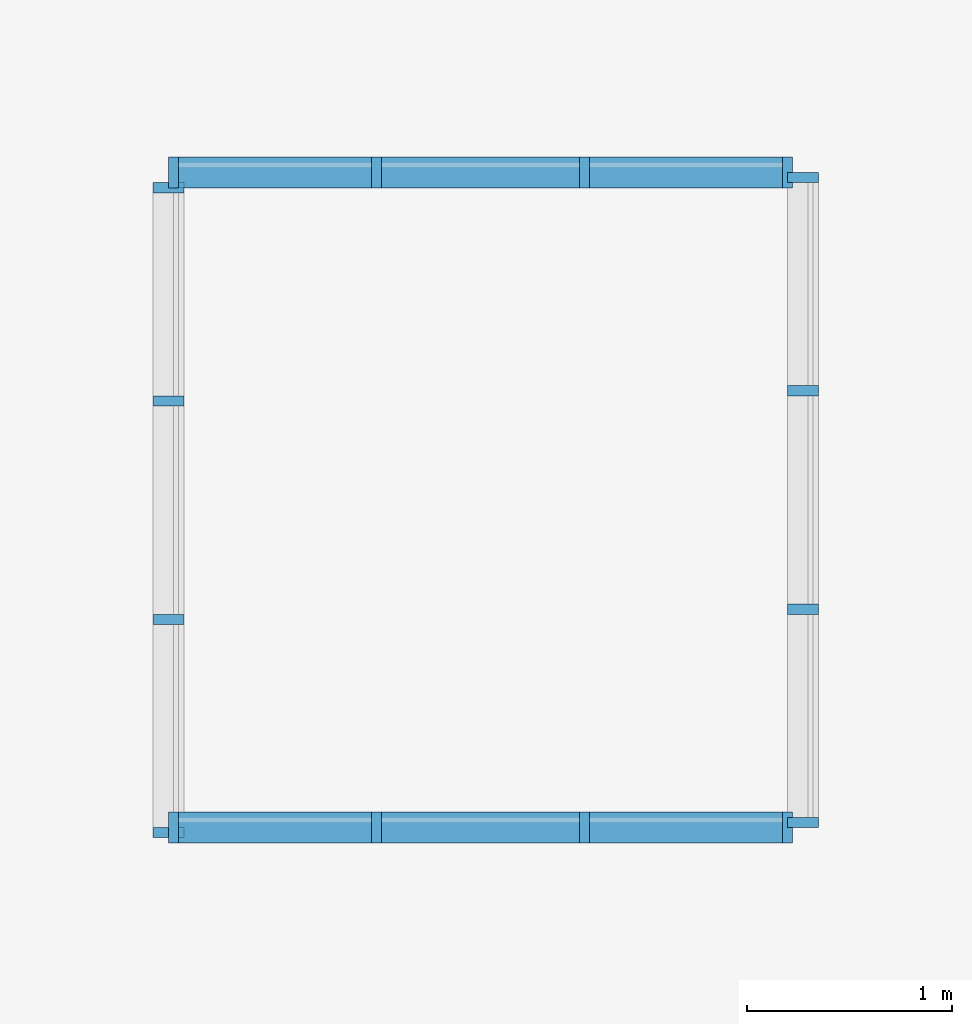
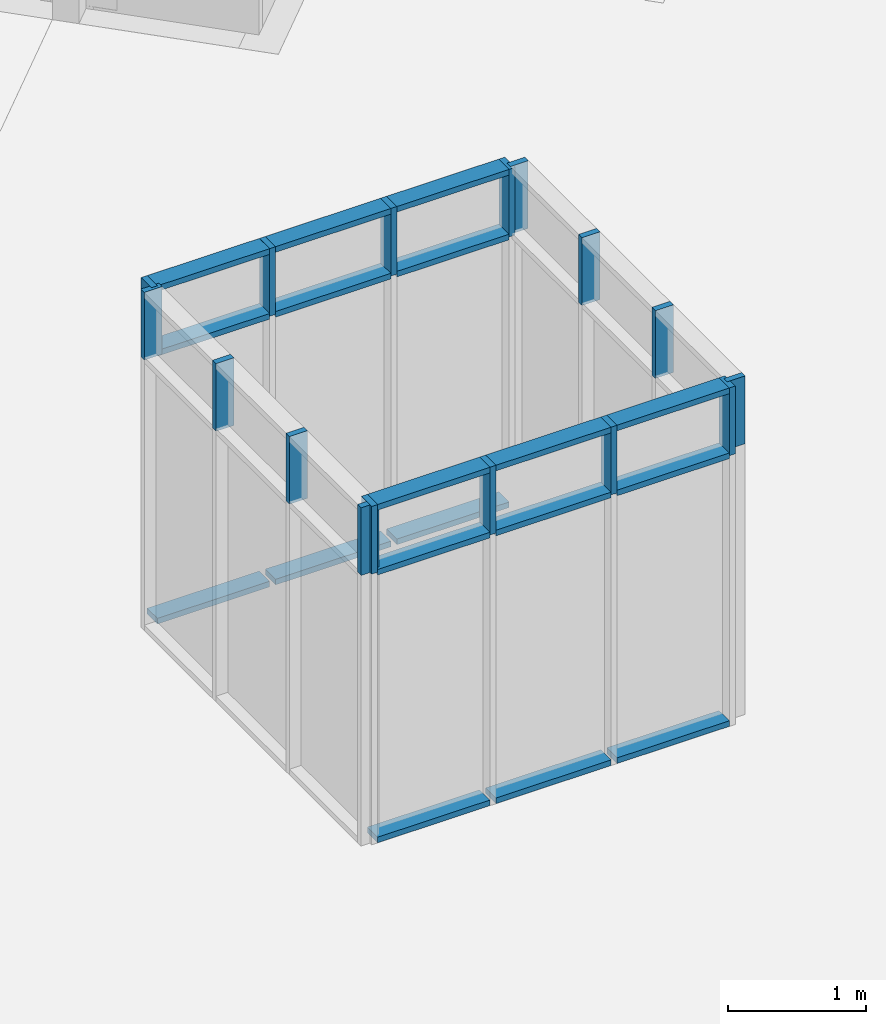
# One storey, part 9 of 64: 34 members, 4 elements without a shape of their own.
"""IFC2X3 building model written with IfcOpenShell, lengths in millimetres."""

from ifc_helpers import new_model, entity, si_unit, converted_unit, derived_unit, direction, frame, frame_2d, origin, origin_2d_with_axis, place, context, subcontext, project, spatial, rectangle, extrude, material, type_object, element, aggregate, save


model = new_model("IFC2X3")

# Units and contexts
model_context = context("Model", 3, precision=0.01, world=origin(), true_north=direction((4.05803320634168e-15, -1.0)))
body_context = subcontext(model_context, "Body", "Model", "MODEL_VIEW")
ifc_project = project(units=[si_unit("LENGTHUNIT", "METRE", prefix="MILLI"), si_unit("AREAUNIT", "SQUARE_METRE"), si_unit("VOLUMEUNIT", "CUBIC_METRE"), converted_unit("PLANEANGLEUNIT", "DEGREE", entity("IfcRatioMeasure", 0.0174532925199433), si_unit("PLANEANGLEUNIT", "RADIAN"), dimensions=[0, 0, 0, 0, 0, 0, 0]), si_unit("MASSUNIT", "GRAM", prefix="KILO"), derived_unit("MASSDENSITYUNIT", [(si_unit("MASSUNIT", "GRAM", prefix="KILO"), 1), (si_unit("LENGTHUNIT", "METRE"), -3)]), si_unit("TIMEUNIT", "SECOND"), si_unit("FREQUENCYUNIT", "HERTZ"), si_unit("THERMODYNAMICTEMPERATUREUNIT", "DEGREE_CELSIUS"), derived_unit("THERMALTRANSMITTANCEUNIT", [(si_unit("MASSUNIT", "GRAM", prefix="KILO"), 1), (si_unit("THERMODYNAMICTEMPERATUREUNIT", "KELVIN"), -1), (si_unit("TIMEUNIT", "SECOND"), -3)]), derived_unit("VOLUMETRICFLOWRATEUNIT", [(si_unit("LENGTHUNIT", "METRE"), 3), (si_unit("TIMEUNIT", "SECOND"), -1)]), si_unit("ELECTRICCURRENTUNIT", "AMPERE"), si_unit("ELECTRICVOLTAGEUNIT", "VOLT"), si_unit("POWERUNIT", "WATT"), si_unit("FORCEUNIT", "NEWTON", prefix="KILO"), si_unit("ILLUMINANCEUNIT", "LUX"), si_unit("LUMINOUSFLUXUNIT", "LUMEN"), si_unit("LUMINOUSINTENSITYUNIT", "CANDELA"), derived_unit("USERDEFINED", [(si_unit("MASSUNIT", "GRAM", prefix="KILO"), -1), (si_unit("LENGTHUNIT", "METRE"), -2), (si_unit("TIMEUNIT", "SECOND"), 3), (si_unit("LUMINOUSFLUXUNIT", "LUMEN"), 1)]), derived_unit("LINEARVELOCITYUNIT", [(si_unit("LENGTHUNIT", "METRE"), 1), (si_unit("TIMEUNIT", "SECOND"), -1)]), si_unit("PRESSUREUNIT", "PASCAL"), derived_unit("USERDEFINED", [(si_unit("LENGTHUNIT", "METRE"), -2), (si_unit("MASSUNIT", "GRAM", prefix="KILO"), 1), (si_unit("TIMEUNIT", "SECOND"), -2)])], contexts=[model_context])

# Site, building, storey
site_placement = place(None, frame((927466.849349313, 583801.882853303, 0.0), z_axis=(0.0, 0.0, 1.0), x_axis=(-1.0, 0.0, 0.0)))
site = spatial("IfcSite", under=ifc_project, at=site_placement, Name="Surface", CompositionType="ELEMENT")
building_placement = place(site_placement, origin())
building = spatial("IfcBuilding", under=site, at=building_placement, CompositionType="ELEMENT")
storey_placement = place(building_placement, frame((0.0, 0.0, 44170.0)))
storey = spatial("IfcBuildingStorey", under=building, at=storey_placement, Name="Ground FFL", CompositionType="ELEMENT", Elevation=44170.0)

# Curtain wall, members
curtain_wall_type = type_object("IfcCurtainWallType", Name="Curtain Wall:Storefront", PredefinedType="NOTDEFINED")
curtain_wall_1_placement = place(storey_placement, frame((0.0, 0.0, -44170.0)))
curtain_wall_1 = element("IfcCurtainWall", 1, at=curtain_wall_1_placement, inside=storey, type_object=curtain_wall_type, Name="Curtain Wall:Storefront", ObjectType="Curtain Wall:Storefront")
ifc_material = material(Name="Aluminium")
member_1_placement = place(curtain_wall_1_placement, frame((0.0, 0.0, 44170.0)))
member_1 = element("IfcMember", 2, at=member_1_placement, material=ifc_material, Name="Curtain Wall:Storefront:8486", ObjectType="Curtain Wall:Storefront:8486", context=body_context, shape_type="SweptSolid", body=[
    extrude(rectangle(XDim=150.000000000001, YDim=50.0000000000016, at=frame_2d((0.0, 2.16715534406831e-12), x_axis=(1.0, 0.0))), frame((-91700.5917798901, -21346.7403210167, 3001.14574404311), z_axis=(0.0, 0.0, -1.0), x_axis=(-1.0, 0.0, 0.0)), (0.0, 0.0, 1.0), 601.145744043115),
])
member_2_placement = place(curtain_wall_1_placement, frame((0.0, 0.0, 44170.0)))
member_2 = element("IfcMember", 3, at=member_2_placement, material=ifc_material, Name="Curtain Wall:Storefront:8486", ObjectType="Curtain Wall:Storefront:8486", context=body_context, shape_type="SweptSolid", body=[
    extrude(rectangle(XDim=150.000000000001, YDim=50.0000000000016, at=frame_2d((0.0, 2.16715534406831e-12), x_axis=(1.0, 0.0))), frame((-91700.5917798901, -24496.7403210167, 2400.0), z_axis=(0.0, 0.0, 1.0), x_axis=(-1.0, 0.0, 0.0)), (0.0, 0.0, 1.0), 601.145744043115),
])
member_3_placement = place(curtain_wall_1_placement, frame((0.0, 0.0, 44170.0)))
member_3 = element("IfcMember", 4, at=member_3_placement, material=ifc_material, Name="Curtain Wall:Storefront:8486", ObjectType="Curtain Wall:Storefront:8486", context=body_context, shape_type="SweptSolid", body=[
    extrude(rectangle(XDim=150.000000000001, YDim=49.9999999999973, at=origin_2d_with_axis()), frame((-91700.5917798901, -22388.4069877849, 2400.0), z_axis=(0.0, 0.0, 1.0), x_axis=(-1.0, 0.0, 0.0)), (0.0, 0.0, 1.0), 601.145744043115),
])
member_4_placement = place(curtain_wall_1_placement, frame((0.0, 0.0, 44170.0)))
member_4 = element("IfcMember", 5, at=member_4_placement, material=ifc_material, Name="Curtain Wall:Storefront:8486", ObjectType="Curtain Wall:Storefront:8486", context=body_context, shape_type="SweptSolid", body=[
    extrude(rectangle(XDim=150.000000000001, YDim=49.9999999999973, at=origin_2d_with_axis()), frame((-91700.5917798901, -23455.0736542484, 2400.0), z_axis=(0.0, 0.0, 1.0), x_axis=(-1.0, 0.0, 0.0)), (0.0, 0.0, 1.0), 601.145744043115),
])
aggregate(curtain_wall_1, [member_1, member_2, member_3, member_4])

curtain_wall_2_placement = place(storey_placement, frame((0.0, 0.0, -44170.0)))
curtain_wall_2 = element("IfcCurtainWall", 6, at=curtain_wall_2_placement, inside=storey, type_object=curtain_wall_type, Name="Curtain Wall:Storefront", ObjectType="Curtain Wall:Storefront")
member_5_placement = place(curtain_wall_2_placement, frame((0.0, 0.0, 44170.0)))
member_5 = element("IfcMember", 7, at=member_5_placement, material=ifc_material, Name="Curtain Wall:Storefront:8486", ObjectType="Curtain Wall:Storefront:8486", context=body_context, shape_type="SweptSolid", body=[
    extrude(rectangle(XDim=49.9999999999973, YDim=150.000000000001, at=frame_2d((4.33075797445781e-12, 8.66151594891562e-12), x_axis=(1.0, 0.0))), frame((-91600.5917798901, -21321.7403210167, 2976.14574404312), z_axis=(1.0, 0.0, 0.0), x_axis=(0.0, 0.0, -1.0)), (0.0, 0.0, 1.0), 941.666666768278),
])
member_6_placement = place(curtain_wall_2_placement, frame((0.0, 0.0, 44170.0)))
member_6 = element("IfcMember", 8, at=member_6_placement, material=ifc_material, Name="Curtain Wall:Storefront:8486", ObjectType="Curtain Wall:Storefront:8486", context=body_context, shape_type="SweptSolid", body=[
    extrude(rectangle(XDim=49.9999999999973, YDim=150.000000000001, at=frame_2d((4.33075797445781e-12, 8.66151594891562e-12), x_axis=(1.0, 0.0))), frame((-88650.5917798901, -21321.7403210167, 25.0), z_axis=(-1.0, 0.0, 0.0), x_axis=(0.0, 0.0, -1.0)), (0.0, 0.0, 1.0), 941.666666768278),
])
member_7_placement = place(curtain_wall_2_placement, frame((0.0, 0.0, 44170.0)))
member_7 = element("IfcMember", 9, at=member_7_placement, material=ifc_material, Name="Curtain Wall:Storefront:8486", ObjectType="Curtain Wall:Storefront:8486", context=body_context, shape_type="SweptSolid", body=[
    extrude(rectangle(XDim=50.000000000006, YDim=150.000000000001, at=frame_2d((-8.66329230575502e-12, 0.0), x_axis=(1.0, 0.0))), frame((-88625.5917798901, -21321.7403210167, 3001.14574404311), z_axis=(0.0, 0.0, -1.0), x_axis=(-1.0, 0.0, 0.0)), (0.0, 0.0, 1.0), 601.145744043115),
])
member_8_placement = place(curtain_wall_2_placement, frame((0.0, 0.0, 44170.0)))
member_8 = element("IfcMember", 10, at=member_8_placement, material=ifc_material, Name="Curtain Wall:Storefront:8486", ObjectType="Curtain Wall:Storefront:8486", context=body_context, shape_type="SweptSolid", body=[
    extrude(rectangle(XDim=49.9999999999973, YDim=150.000000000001, at=frame_2d((4.33075797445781e-12, 8.66151594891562e-12), x_axis=(1.0, 0.0))), frame((-89592.2584466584, -21321.7403210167, 2976.14574404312), z_axis=(1.0, 0.0, 0.0), x_axis=(0.0, 0.0, -1.0)), (0.0, 0.0, 1.0), 941.666666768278),
])
member_9_placement = place(curtain_wall_2_placement, frame((0.0, 0.0, 44170.0)))
member_9 = element("IfcMember", 11, at=member_9_placement, material=ifc_material, Name="Curtain Wall:Storefront:8486", ObjectType="Curtain Wall:Storefront:8486", context=body_context, shape_type="SweptSolid", body=[
    extrude(rectangle(XDim=49.9999999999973, YDim=150.000000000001, at=frame_2d((4.33075797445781e-12, 4.33431068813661e-12), x_axis=(1.0, 0.0))), frame((-90608.9251131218, -21321.7403210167, 2976.14574404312), z_axis=(1.0, 0.0, 0.0), x_axis=(0.0, 0.0, -1.0)), (0.0, 0.0, 1.0), 966.666666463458),
])
member_10_placement = place(curtain_wall_2_placement, frame((0.0, 0.0, 44170.0)))
member_10 = element("IfcMember", 12, at=member_10_placement, material=ifc_material, Name="Curtain Wall:Storefront:8486", ObjectType="Curtain Wall:Storefront:8486", context=body_context, shape_type="SweptSolid", body=[
    extrude(rectangle(XDim=49.9999999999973, YDim=150.000000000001, at=frame_2d((4.33075797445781e-12, 4.33431068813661e-12), x_axis=(1.0, 0.0))), frame((-89642.2584466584, -21321.7403210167, 25.0), z_axis=(-1.0, 0.0, 0.0), x_axis=(0.0, 0.0, -1.0)), (0.0, 0.0, 1.0), 966.666666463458),
])
member_11_placement = place(curtain_wall_2_placement, frame((0.0, 0.0, 44170.0)))
member_11 = element("IfcMember", 13, at=member_11_placement, material=ifc_material, Name="Curtain Wall:Storefront:8486", ObjectType="Curtain Wall:Storefront:8486", context=body_context, shape_type="SweptSolid", body=[
    extrude(rectangle(XDim=49.9999999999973, YDim=150.000000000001, at=frame_2d((4.33075797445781e-12, 8.66151594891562e-12), x_axis=(1.0, 0.0))), frame((-90658.9251131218, -21321.7403210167, 25.0), z_axis=(-1.0, 0.0, 0.0), x_axis=(0.0, 0.0, -1.0)), (0.0, 0.0, 1.0), 941.666666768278),
])
member_12_placement = place(curtain_wall_2_placement, frame((0.0, 0.0, 44170.0)))
member_12 = element("IfcMember", 14, at=member_12_placement, material=ifc_material, Name="Curtain Wall:Storefront:8486", ObjectType="Curtain Wall:Storefront:8486", context=body_context, shape_type="SweptSolid", body=[
    extrude(rectangle(XDim=50.000000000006, YDim=150.000000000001, at=frame_2d((-8.66329230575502e-12, 0.0), x_axis=(1.0, 0.0))), frame((-91625.5917798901, -21321.7403210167, 2400.0), z_axis=(0.0, 0.0, 1.0), x_axis=(-1.0, 0.0, 0.0)), (0.0, 0.0, 1.0), 601.145744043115),
])
member_13_placement = place(curtain_wall_2_placement, frame((0.0, 0.0, 44170.0)))
member_13 = element("IfcMember", 15, at=member_13_placement, material=ifc_material, Name="Curtain Wall:Storefront:8486", ObjectType="Curtain Wall:Storefront:8486", context=body_context, shape_type="SweptSolid", body=[
    extrude(rectangle(XDim=50.000000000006, YDim=150.000000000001, at=frame_2d((0.0, 8.66151594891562e-12), x_axis=(1.0, 0.0))), frame((-89592.2584466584, -21321.7403210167, 2400.0), z_axis=(1.0, 0.0, 0.0), x_axis=(0.0, 0.0, -1.0)), (0.0, 0.0, 1.0), 941.666666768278),
])
member_14_placement = place(curtain_wall_2_placement, frame((0.0, 0.0, 44170.0)))
member_14 = element("IfcMember", 16, at=member_14_placement, material=ifc_material, Name="Curtain Wall:Storefront:8486", ObjectType="Curtain Wall:Storefront:8486", context=body_context, shape_type="SweptSolid", body=[
    extrude(rectangle(XDim=50.000000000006, YDim=150.000000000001, at=frame_2d((0.0, 4.33431068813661e-12), x_axis=(1.0, 0.0))), frame((-90608.9251131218, -21321.7403210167, 2400.0), z_axis=(1.0, 0.0, 0.0), x_axis=(0.0, 0.0, -1.0)), (0.0, 0.0, 1.0), 966.666666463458),
])
member_15_placement = place(curtain_wall_2_placement, frame((0.0, 0.0, 44170.0)))
member_15 = element("IfcMember", 17, at=member_15_placement, material=ifc_material, Name="Curtain Wall:Storefront:8486", ObjectType="Curtain Wall:Storefront:8486", context=body_context, shape_type="SweptSolid", body=[
    extrude(rectangle(XDim=50.000000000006, YDim=150.000000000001, at=frame_2d((0.0, 8.66151594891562e-12), x_axis=(1.0, 0.0))), frame((-91600.5917798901, -21321.7403210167, 2400.0), z_axis=(1.0, 0.0, 0.0), x_axis=(0.0, 0.0, -1.0)), (0.0, 0.0, 1.0), 941.666666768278),
])
member_16_placement = place(curtain_wall_2_placement, frame((0.0, 0.0, 44170.0)))
member_16 = element("IfcMember", 18, at=member_16_placement, material=ifc_material, Name="Curtain Wall:Storefront:8486", ObjectType="Curtain Wall:Storefront:8486", context=body_context, shape_type="SweptSolid", body=[
    extrude(rectangle(XDim=49.9999999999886, YDim=150.000000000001, at=origin_2d_with_axis()), frame((-89617.2584466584, -21321.7403210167, 2400.0), z_axis=(0.0, 0.0, 1.0), x_axis=(-1.0, 0.0, 0.0)), (0.0, 0.0, 1.0), 601.145744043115),
])
member_17_placement = place(curtain_wall_2_placement, frame((0.0, 0.0, 44170.0)))
member_17 = element("IfcMember", 19, at=member_17_placement, material=ifc_material, Name="Curtain Wall:Storefront:8486", ObjectType="Curtain Wall:Storefront:8486", context=body_context, shape_type="SweptSolid", body=[
    extrude(rectangle(XDim=49.9999999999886, YDim=150.000000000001, at=frame_2d((1.732658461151e-11, 0.0), x_axis=(1.0, 0.0))), frame((-90633.9251131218, -21321.7403210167, 2400.0), z_axis=(0.0, 0.0, 1.0), x_axis=(-1.0, 0.0, 0.0)), (0.0, 0.0, 1.0), 601.145744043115),
])
aggregate(curtain_wall_2, [member_5, member_6, member_7, member_8, member_9, member_10, member_11, member_12, member_13, member_14, member_15, member_16, member_17])

curtain_wall_3_placement = place(storey_placement, frame((0.0, 0.0, -44170.0)))
curtain_wall_3 = element("IfcCurtainWall", 20, at=curtain_wall_3_placement, inside=storey, type_object=curtain_wall_type, Name="Curtain Wall:Storefront", ObjectType="Curtain Wall:Storefront")
member_18_placement = place(curtain_wall_3_placement, frame((0.0, 0.0, 44170.0)))
member_18 = element("IfcMember", 21, at=member_18_placement, material=ifc_material, Name="Curtain Wall:Storefront:8486", ObjectType="Curtain Wall:Storefront:8486", context=body_context, shape_type="SweptSolid", body=[
    extrude(rectangle(XDim=49.9999999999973, YDim=150.000000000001, at=frame_2d((4.33075797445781e-12, 8.66151594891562e-12), x_axis=(1.0, 0.0))), frame((-91600.5917798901, -24521.7403210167, 2975.0), z_axis=(1.0, 0.0, 0.0), x_axis=(0.0, 0.0, -1.0)), (0.0, 0.0, 1.0), 941.666666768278),
])
member_19_placement = place(curtain_wall_3_placement, frame((0.0, 0.0, 44170.0)))
member_19 = element("IfcMember", 22, at=member_19_placement, material=ifc_material, Name="Curtain Wall:Storefront:8486", ObjectType="Curtain Wall:Storefront:8486", context=body_context, shape_type="SweptSolid", body=[
    extrude(rectangle(XDim=49.9999999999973, YDim=150.000000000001, at=frame_2d((4.33075797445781e-12, 8.66151594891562e-12), x_axis=(1.0, 0.0))), frame((-88650.5917798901, -24521.7403210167, 25.0), z_axis=(-1.0, 0.0, 0.0), x_axis=(0.0, 0.0, -1.0)), (0.0, 0.0, 1.0), 941.666666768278),
])
member_20_placement = place(curtain_wall_3_placement, frame((0.0, 0.0, 44170.0)))
member_20 = element("IfcMember", 23, at=member_20_placement, material=ifc_material, Name="Curtain Wall:Storefront:8486", ObjectType="Curtain Wall:Storefront:8486", context=body_context, shape_type="SweptSolid", body=[
    extrude(rectangle(XDim=50.000000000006, YDim=150.000000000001, at=frame_2d((8.66329230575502e-12, 0.0), x_axis=(1.0, 0.0))), frame((-88625.5917798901, -24521.7403210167, 3000.0), z_axis=(0.0, 0.0, -1.0), x_axis=(-1.0, 0.0, 0.0)), (0.0, 0.0, 1.0), 600.000000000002),
])
member_21_placement = place(curtain_wall_3_placement, frame((0.0, 0.0, 44170.0)))
member_21 = element("IfcMember", 24, at=member_21_placement, material=ifc_material, Name="Curtain Wall:Storefront:8486", ObjectType="Curtain Wall:Storefront:8486", context=body_context, shape_type="SweptSolid", body=[
    extrude(rectangle(XDim=49.9999999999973, YDim=150.000000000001, at=frame_2d((4.33075797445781e-12, 8.66151594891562e-12), x_axis=(1.0, 0.0))), frame((-89592.2584466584, -24521.7403210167, 2975.0), z_axis=(1.0, 0.0, 0.0), x_axis=(0.0, 0.0, -1.0)), (0.0, 0.0, 1.0), 941.666666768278),
])
member_22_placement = place(curtain_wall_3_placement, frame((0.0, 0.0, 44170.0)))
member_22 = element("IfcMember", 25, at=member_22_placement, material=ifc_material, Name="Curtain Wall:Storefront:8486", ObjectType="Curtain Wall:Storefront:8486", context=body_context, shape_type="SweptSolid", body=[
    extrude(rectangle(XDim=49.9999999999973, YDim=150.000000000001, at=frame_2d((4.33075797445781e-12, 4.33431068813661e-12), x_axis=(1.0, 0.0))), frame((-90608.9251131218, -24521.7403210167, 2975.0), z_axis=(1.0, 0.0, 0.0), x_axis=(0.0, 0.0, -1.0)), (0.0, 0.0, 1.0), 966.666666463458),
])
member_23_placement = place(curtain_wall_3_placement, frame((0.0, 0.0, 44170.0)))
member_23 = element("IfcMember", 26, at=member_23_placement, material=ifc_material, Name="Curtain Wall:Storefront:8486", ObjectType="Curtain Wall:Storefront:8486", context=body_context, shape_type="SweptSolid", body=[
    extrude(rectangle(XDim=49.9999999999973, YDim=150.000000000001, at=frame_2d((4.33075797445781e-12, 4.33431068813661e-12), x_axis=(1.0, 0.0))), frame((-89642.2584466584, -24521.7403210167, 25.0), z_axis=(-1.0, 0.0, 0.0), x_axis=(0.0, 0.0, -1.0)), (0.0, 0.0, 1.0), 966.666666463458),
])
member_24_placement = place(curtain_wall_3_placement, frame((0.0, 0.0, 44170.0)))
member_24 = element("IfcMember", 27, at=member_24_placement, material=ifc_material, Name="Curtain Wall:Storefront:8486", ObjectType="Curtain Wall:Storefront:8486", context=body_context, shape_type="SweptSolid", body=[
    extrude(rectangle(XDim=49.9999999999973, YDim=150.000000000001, at=frame_2d((4.33075797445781e-12, 8.66151594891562e-12), x_axis=(1.0, 0.0))), frame((-90658.9251131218, -24521.7403210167, 25.0), z_axis=(-1.0, 0.0, 0.0), x_axis=(0.0, 0.0, -1.0)), (0.0, 0.0, 1.0), 941.666666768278),
])
member_25_placement = place(curtain_wall_3_placement, frame((0.0, 0.0, 44170.0)))
member_25 = element("IfcMember", 28, at=member_25_placement, material=ifc_material, Name="Curtain Wall:Storefront:8486", ObjectType="Curtain Wall:Storefront:8486", context=body_context, shape_type="SweptSolid", body=[
    extrude(rectangle(XDim=50.000000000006, YDim=150.000000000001, at=frame_2d((8.66329230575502e-12, 0.0), x_axis=(1.0, 0.0))), frame((-91625.5917798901, -24521.7403210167, 2400.0), z_axis=(0.0, 0.0, 1.0), x_axis=(-1.0, 0.0, 0.0)), (0.0, 0.0, 1.0), 600.000000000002),
])
member_26_placement = place(curtain_wall_3_placement, frame((0.0, 0.0, 44170.0)))
member_26 = element("IfcMember", 29, at=member_26_placement, material=ifc_material, Name="Curtain Wall:Storefront:8486", ObjectType="Curtain Wall:Storefront:8486", context=body_context, shape_type="SweptSolid", body=[
    extrude(rectangle(XDim=50.000000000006, YDim=150.000000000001, at=frame_2d((0.0, 8.66151594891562e-12), x_axis=(1.0, 0.0))), frame((-89592.2584466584, -24521.7403210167, 2400.0), z_axis=(1.0, 0.0, 0.0), x_axis=(0.0, 0.0, -1.0)), (0.0, 0.0, 1.0), 941.666666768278),
])
member_27_placement = place(curtain_wall_3_placement, frame((0.0, 0.0, 44170.0)))
member_27 = element("IfcMember", 30, at=member_27_placement, material=ifc_material, Name="Curtain Wall:Storefront:8486", ObjectType="Curtain Wall:Storefront:8486", context=body_context, shape_type="SweptSolid", body=[
    extrude(rectangle(XDim=50.000000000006, YDim=150.000000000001, at=frame_2d((0.0, 4.33431068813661e-12), x_axis=(1.0, 0.0))), frame((-90608.9251131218, -24521.7403210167, 2400.0), z_axis=(1.0, 0.0, 0.0), x_axis=(0.0, 0.0, -1.0)), (0.0, 0.0, 1.0), 966.666666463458),
])
member_28_placement = place(curtain_wall_3_placement, frame((0.0, 0.0, 44170.0)))
member_28 = element("IfcMember", 31, at=member_28_placement, material=ifc_material, Name="Curtain Wall:Storefront:8486", ObjectType="Curtain Wall:Storefront:8486", context=body_context, shape_type="SweptSolid", body=[
    extrude(rectangle(XDim=50.000000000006, YDim=150.000000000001, at=frame_2d((0.0, 8.66151594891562e-12), x_axis=(1.0, 0.0))), frame((-91600.5917798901, -24521.7403210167, 2400.0), z_axis=(1.0, 0.0, 0.0), x_axis=(0.0, 0.0, -1.0)), (0.0, 0.0, 1.0), 941.666666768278),
])
member_29_placement = place(curtain_wall_3_placement, frame((0.0, 0.0, 44170.0)))
member_29 = element("IfcMember", 32, at=member_29_placement, material=ifc_material, Name="Curtain Wall:Storefront:8486", ObjectType="Curtain Wall:Storefront:8486", context=body_context, shape_type="SweptSolid", body=[
    extrude(rectangle(XDim=49.9999999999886, YDim=150.000000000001, at=origin_2d_with_axis()), frame((-89617.2584466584, -24521.7403210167, 2400.0), z_axis=(0.0, 0.0, 1.0), x_axis=(-1.0, 0.0, 0.0)), (0.0, 0.0, 1.0), 600.000000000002),
])
member_30_placement = place(curtain_wall_3_placement, frame((0.0, 0.0, 44170.0)))
member_30 = element("IfcMember", 33, at=member_30_placement, material=ifc_material, Name="Curtain Wall:Storefront:8486", ObjectType="Curtain Wall:Storefront:8486", context=body_context, shape_type="SweptSolid", body=[
    extrude(rectangle(XDim=49.9999999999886, YDim=150.000000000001, at=frame_2d((1.732658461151e-11, 0.0), x_axis=(1.0, 0.0))), frame((-90633.9251131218, -24521.7403210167, 2400.0), z_axis=(0.0, 0.0, 1.0), x_axis=(-1.0, 0.0, 0.0)), (0.0, 0.0, 1.0), 600.000000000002),
])
aggregate(curtain_wall_3, [member_18, member_19, member_20, member_21, member_22, member_23, member_24, member_25, member_26, member_27, member_28, member_29, member_30])

curtain_wall_4_placement = place(storey_placement, frame((0.0, 0.0, -44170.0)))
curtain_wall_4 = element("IfcCurtainWall", 34, at=curtain_wall_4_placement, inside=storey, type_object=curtain_wall_type, Name="Curtain Wall:Storefront", ObjectType="Curtain Wall:Storefront")
member_31_placement = place(curtain_wall_4_placement, frame((0.0, 0.0, 44170.0)))
member_31 = element("IfcMember", 35, at=member_31_placement, material=ifc_material, Name="Curtain Wall:Storefront:8486", ObjectType="Curtain Wall:Storefront:8486", context=body_context, shape_type="SweptSolid", body=[
    extrude(rectangle(XDim=150.000000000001, YDim=50.0000000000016, at=frame_2d((0.0, 2.16715534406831e-12), x_axis=(1.0, 0.0))), frame((-88600.5917798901, -21296.7403210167, 3000.0), z_axis=(0.0, 0.0, -1.0), x_axis=(-1.0, 0.0, 0.0)), (0.0, 0.0, 1.0), 600.000000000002),
])
member_32_placement = place(curtain_wall_4_placement, frame((0.0, 0.0, 44170.0)))
member_32 = element("IfcMember", 36, at=member_32_placement, material=ifc_material, Name="Curtain Wall:Storefront:8486", ObjectType="Curtain Wall:Storefront:8486", context=body_context, shape_type="SweptSolid", body=[
    extrude(rectangle(XDim=150.000000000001, YDim=50.0000000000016, at=frame_2d((0.0, -2.16715534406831e-12), x_axis=(1.0, 0.0))), frame((-88600.5917798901, -24446.7403210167, 2400.0), z_axis=(0.0, 0.0, 1.0), x_axis=(-1.0, 0.0, 0.0)), (0.0, 0.0, 1.0), 600.000000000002),
])
member_33_placement = place(curtain_wall_4_placement, frame((0.0, 0.0, 44170.0)))
member_33 = element("IfcMember", 37, at=member_33_placement, material=ifc_material, Name="Curtain Wall:Storefront:8486", ObjectType="Curtain Wall:Storefront:8486", context=body_context, shape_type="SweptSolid", body=[
    extrude(rectangle(XDim=150.000000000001, YDim=49.9999999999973, at=origin_2d_with_axis()), frame((-88600.5917798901, -22338.406987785, 2400.0), z_axis=(0.0, 0.0, 1.0), x_axis=(-1.0, 0.0, 0.0)), (0.0, 0.0, 1.0), 600.000000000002),
])
member_34_placement = place(curtain_wall_4_placement, frame((0.0, 0.0, 44170.0)))
member_34 = element("IfcMember", 38, at=member_34_placement, material=ifc_material, Name="Curtain Wall:Storefront:8486", ObjectType="Curtain Wall:Storefront:8486", context=body_context, shape_type="SweptSolid", body=[
    extrude(rectangle(XDim=150.000000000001, YDim=49.9999999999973, at=origin_2d_with_axis()), frame((-88600.5917798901, -23405.0736542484, 2400.0), z_axis=(0.0, 0.0, 1.0), x_axis=(-1.0, 0.0, 0.0)), (0.0, 0.0, 1.0), 600.000000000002),
])
aggregate(curtain_wall_4, [member_31, member_32, member_33, member_34])

save(model, "model.ifc")
